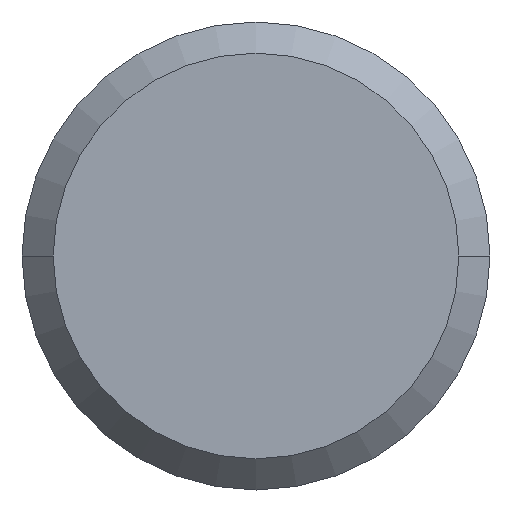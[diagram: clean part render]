
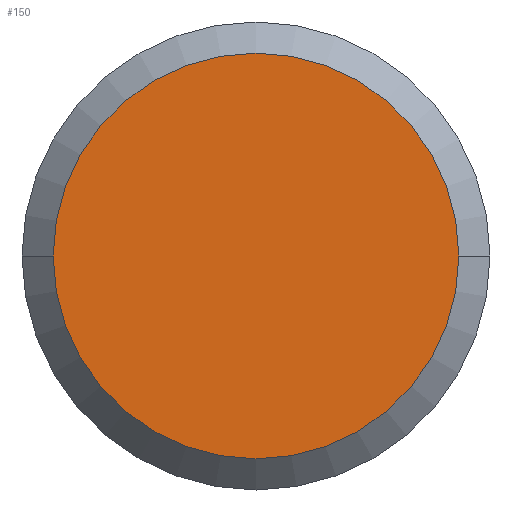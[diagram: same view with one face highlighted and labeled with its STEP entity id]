
A CAD part, left-side view. The second image highlights one B-rep face of the part: STEP entity #150.
In plain terms, the highlighted planar face has unit normal (-1, 0, 0).
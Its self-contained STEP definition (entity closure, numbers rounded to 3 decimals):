
#56=PLANE('',#2344);
#150=ADVANCED_FACE('',(#298),#56,.T.);
#298=FACE_OUTER_BOUND('',#446,.F.);
#446=EDGE_LOOP('',(#812,#813));
#812=ORIENTED_EDGE('',*,*,#1737,.F.);
#813=ORIENTED_EDGE('',*,*,#1518,.F.);
#1518=EDGE_CURVE('',#2115,#2114,#1812,.T.);
#1737=EDGE_CURVE('',#2114,#2115,#1891,.T.);
#1812=CIRCLE('',#2118,6.5);
#1891=CIRCLE('',#2197,6.5);
#2114=VERTEX_POINT('',#3318);
#2115=VERTEX_POINT('',#3319);
#2118=AXIS2_PLACEMENT_3D('',#3320,#2423,#2424);
#2197=AXIS2_PLACEMENT_3D('',#3539,#2721,#2722);
#2344=AXIS2_PLACEMENT_3D('',#3686,#3015,#3016);
#2423=DIRECTION('',(-1.,0.,0.));
#2424=DIRECTION('',(0.,1.,0.));
#2721=DIRECTION('',(-1.,0.,0.));
#2722=DIRECTION('',(0.,-1.,0.));
#3015=DIRECTION('',(-1.,0.,0.));
#3016=DIRECTION('',(0.,0.,1.));
#3318=CARTESIAN_POINT('',(0.,-6.5,0.));
#3319=CARTESIAN_POINT('',(0.,6.5,0.));
#3320=CARTESIAN_POINT('',(0.,0.,0.));
#3539=CARTESIAN_POINT('',(0.,0.,0.));
#3686=CARTESIAN_POINT('',(0.,-6.63,-6.63));
